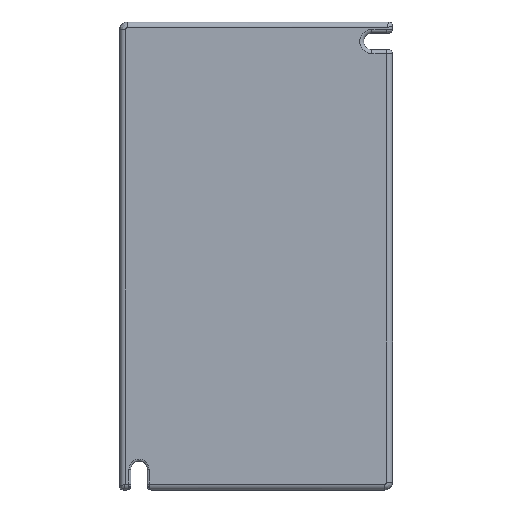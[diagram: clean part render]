
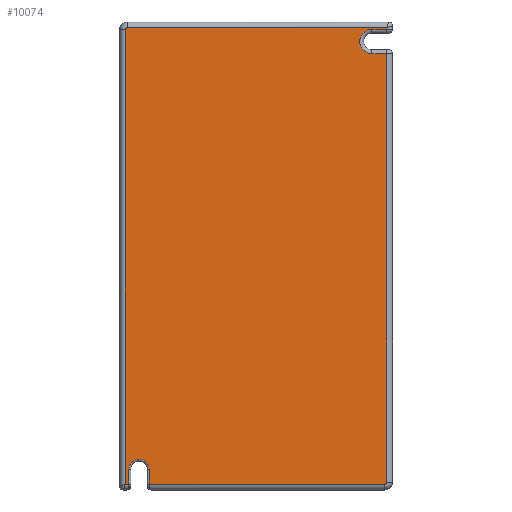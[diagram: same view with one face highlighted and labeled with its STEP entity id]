
A CAD part, front view. The second image highlights one B-rep face of the part: STEP entity #10074.
In plain terms, the highlighted planar face has unit normal (0, -1, 0).
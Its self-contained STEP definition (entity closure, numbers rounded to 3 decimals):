
#84=CARTESIAN_POINT('',(33.,0.,-58.));
#85=DIRECTION('',(0.,-1.,0.));
#86=DIRECTION('',(0.,0.,-1.));
#87=AXIS2_PLACEMENT_3D('',#84,#85,#86);
#93=DIRECTION('',(1.,0.,0.));
#94=VECTOR('',#93,60.4);
#95=CARTESIAN_POINT('',(-27.4,0.,-58.5));
#96=LINE('',#95,#94);
#100=DIRECTION('',(0.,0.,1.));
#101=VECTOR('',#100,3.8);
#102=CARTESIAN_POINT('',(-27.4,0.,-58.5));
#103=LINE('',#102,#101);
#107=CARTESIAN_POINT('',(-30.,0.,-54.7));
#108=DIRECTION('',(0.,-1.,0.));
#109=DIRECTION('',(1.,0.,0.));
#110=AXIS2_PLACEMENT_3D('',#107,#108,#109);
#115=DIRECTION('',(0.,0.,-1.));
#116=VECTOR('',#115,3.8);
#117=CARTESIAN_POINT('',(-32.6,0.,-54.7));
#118=LINE('',#117,#116);
#122=DIRECTION('',(1.,0.,0.));
#123=VECTOR('',#122,0.9);
#124=CARTESIAN_POINT('',(-33.5,0.,-58.5));
#125=LINE('',#124,#123);
#129=DIRECTION('',(0.,0.,-1.));
#130=VECTOR('',#129,116.5);
#131=CARTESIAN_POINT('',(-33.5,0.,58.));
#132=LINE('',#131,#130);
#136=CARTESIAN_POINT('',(-33.,0.,58.));
#137=DIRECTION('',(0.,-1.,0.));
#138=DIRECTION('',(0.,0.,1.));
#139=AXIS2_PLACEMENT_3D('',#136,#137,#138);
#144=DIRECTION('',(-1.,0.,0.));
#145=VECTOR('',#144,66.5);
#146=CARTESIAN_POINT('',(33.5,0.,58.5));
#147=LINE('',#146,#145);
#151=DIRECTION('',(0.,0.,1.));
#152=VECTOR('',#151,0.4);
#153=CARTESIAN_POINT('',(33.5,0.,58.1));
#154=LINE('',#153,#152);
#158=DIRECTION('',(-1.,0.,0.));
#159=VECTOR('',#158,3.8);
#160=CARTESIAN_POINT('',(33.5,0.,58.1));
#161=LINE('',#160,#159);
#165=CARTESIAN_POINT('',(29.7,0.,55.));
#166=DIRECTION('',(0.,-1.,0.));
#167=DIRECTION('',(0.,0.,1.));
#168=AXIS2_PLACEMENT_3D('',#165,#166,#167);
#173=DIRECTION('',(1.,0.,0.));
#174=VECTOR('',#173,3.8);
#175=CARTESIAN_POINT('',(29.7,0.,51.9));
#176=LINE('',#175,#174);
#180=DIRECTION('',(0.,0.,1.));
#181=VECTOR('',#180,109.9);
#182=CARTESIAN_POINT('',(33.5,0.,-58.));
#183=LINE('',#182,#181);
#315=CARTESIAN_POINT('',(-33.5,0.,-58.5));
#2495=CARTESIAN_POINT('',(33.5,0.,58.5));
#9008=VERTEX_POINT('',#2495);
#9009=VERTEX_POINT('',#315);
#9018=CARTESIAN_POINT('',(-32.6,0.,-54.7));
#9019=CARTESIAN_POINT('',(-32.6,0.,-58.5));
#9020=VERTEX_POINT('',#9018);
#9021=VERTEX_POINT('',#9019);
#9024=CARTESIAN_POINT('',(-27.4,0.,-54.7));
#9025=VERTEX_POINT('',#9024);
#9028=CARTESIAN_POINT('',(-27.4,0.,-58.5));
#9029=VERTEX_POINT('',#9028);
#9042=CARTESIAN_POINT('',(33.5,0.,51.9));
#9043=VERTEX_POINT('',#9042);
#9048=CARTESIAN_POINT('',(29.7,0.,51.9));
#9049=VERTEX_POINT('',#9048);
#9052=CARTESIAN_POINT('',(29.7,0.,58.1));
#9053=VERTEX_POINT('',#9052);
#9056=CARTESIAN_POINT('',(33.5,0.,58.1));
#9057=VERTEX_POINT('',#9056);
#9160=CARTESIAN_POINT('',(-33.,0.,58.5));
#9162=VERTEX_POINT('',#9160);
#9163=CARTESIAN_POINT('',(-33.5,0.,58.));
#9164=VERTEX_POINT('',#9163);
#9235=CARTESIAN_POINT('',(33.,0.,-58.5));
#9236=VERTEX_POINT('',#9235);
#9237=CARTESIAN_POINT('',(33.5,0.,-58.));
#9238=VERTEX_POINT('',#9237);
#10039=CARTESIAN_POINT('',(0.,0.,0.));
#10040=DIRECTION('',(0.,1.,0.));
#10041=DIRECTION('',(1.,0.,0.));
#10042=AXIS2_PLACEMENT_3D('',#10039,#10040,#10041);
#10043=PLANE('',#10042);
#10045=ORIENTED_EDGE('',*,*,#10044,.F.);
#10047=ORIENTED_EDGE('',*,*,#10046,.F.);
#10049=ORIENTED_EDGE('',*,*,#10048,.T.);
#10051=ORIENTED_EDGE('',*,*,#10050,.T.);
#10053=ORIENTED_EDGE('',*,*,#10052,.T.);
#10055=ORIENTED_EDGE('',*,*,#10054,.F.);
#10057=ORIENTED_EDGE('',*,*,#10056,.F.);
#10059=ORIENTED_EDGE('',*,*,#10058,.F.);
#10061=ORIENTED_EDGE('',*,*,#10060,.F.);
#10063=ORIENTED_EDGE('',*,*,#10062,.F.);
#10065=ORIENTED_EDGE('',*,*,#10064,.T.);
#10067=ORIENTED_EDGE('',*,*,#10066,.T.);
#10069=ORIENTED_EDGE('',*,*,#10068,.T.);
#10071=ORIENTED_EDGE('',*,*,#10070,.F.);
#10072=EDGE_LOOP('',(#10045,#10047,#10049,#10051,#10053,#10055,#10057,#10059,
#10061,#10063,#10065,#10067,#10069,#10071));
#10073=FACE_OUTER_BOUND('',#10072,.F.);
#88=CIRCLE('',#87,0.5);
#111=CIRCLE('',#110,2.6);
#140=CIRCLE('',#139,0.5);
#169=CIRCLE('',#168,3.1);
#10044=EDGE_CURVE('',#9236,#9238,#88,.T.);
#10046=EDGE_CURVE('',#9029,#9236,#96,.T.);
#10048=EDGE_CURVE('',#9029,#9025,#103,.T.);
#10050=EDGE_CURVE('',#9025,#9020,#111,.T.);
#10052=EDGE_CURVE('',#9020,#9021,#118,.T.);
#10054=EDGE_CURVE('',#9009,#9021,#125,.T.);
#10056=EDGE_CURVE('',#9164,#9009,#132,.T.);
#10058=EDGE_CURVE('',#9162,#9164,#140,.T.);
#10060=EDGE_CURVE('',#9008,#9162,#147,.T.);
#10062=EDGE_CURVE('',#9057,#9008,#154,.T.);
#10064=EDGE_CURVE('',#9057,#9053,#161,.T.);
#10066=EDGE_CURVE('',#9053,#9049,#169,.T.);
#10068=EDGE_CURVE('',#9049,#9043,#176,.T.);
#10070=EDGE_CURVE('',#9238,#9043,#183,.T.);
#10074=ADVANCED_FACE('',(#10073),#10043,.F.);
